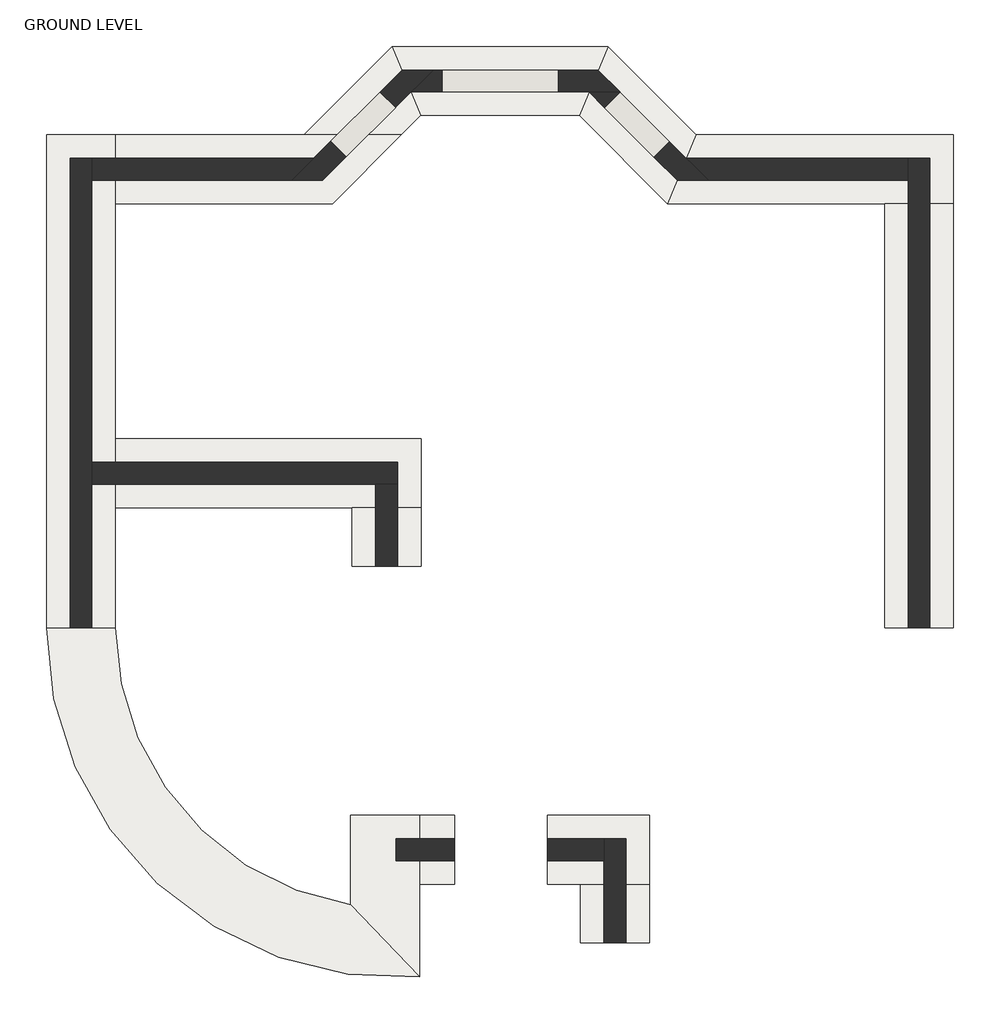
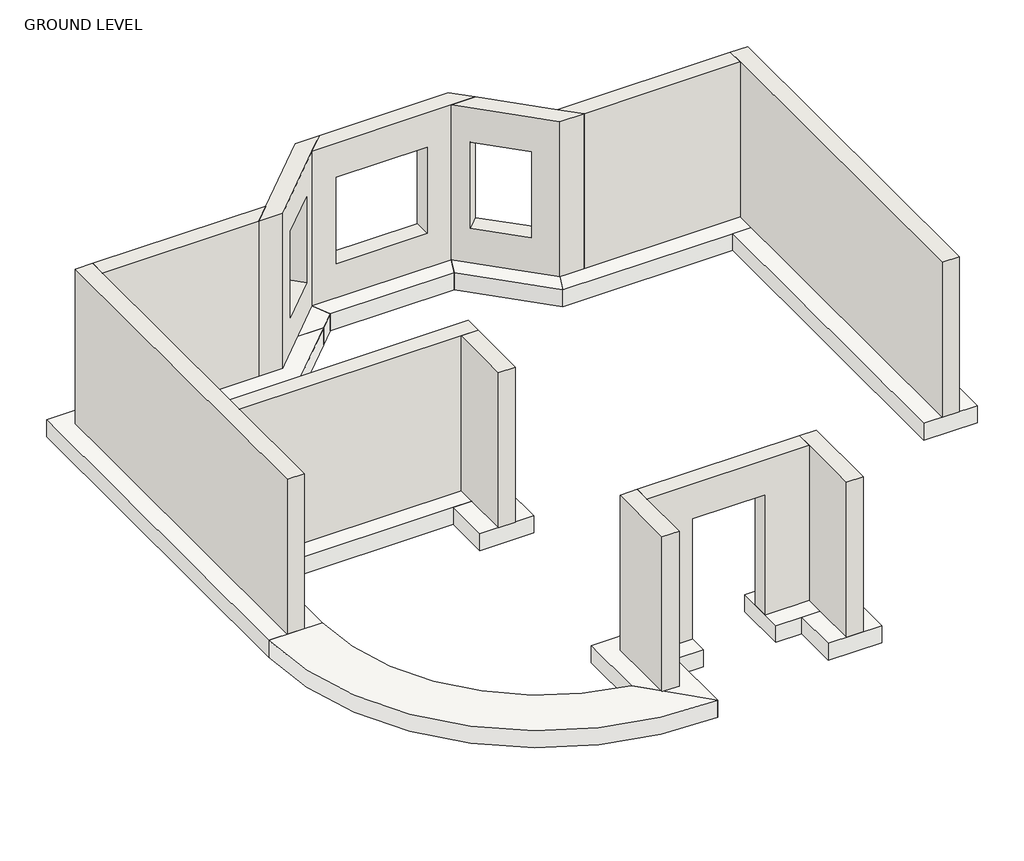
# One storey, incomplete: 13 footings, 12 walls.
"""IFC4 building model written with IfcOpenShell, lengths in millimetres."""

import ifcopenshell
import ifcopenshell.guid

model = None  # the IFC model being written
_history = None  # IfcOwnerHistory: only IFC2X3 demands one
_inside = {}  # id of a spatial element -> (the spatial element, [elements in it])
_under = {}  # id of a project, library or spatial element -> (it, [spatial elements below it])
_declared = {}  # id of a project -> (the project, [libraries it declares])
_typed = {}  # id of a type object -> (the type object, [elements of that type])
_made_of = {}  # id of a material, layer set ... -> (it, [elements and type objects made of it])


def new_model(schema):
    """Start an empty IFC model of exactly this schema.

    Asked for "IFC4X3", IfcOpenShell would pick the latest addendum, in which some entities
    have other attributes; the version numbers below select the first issue.
    IFC2X3 requires an IfcOwnerHistory on every rooted entity: one is made here for all.
    """
    global model, _history
    if schema == "IFC4X3":
        model = ifcopenshell.file(schema_version=(4, 3, 0, 0))
    else:
        model = ifcopenshell.file(schema=schema)
    _inside.clear()
    _under.clear()
    _declared.clear()
    _typed.clear()
    _made_of.clear()
    _history = None
    if model.schema == "IFC2X3":
        org = make("IfcOrganization", Name="unknown")
        user = make(
            "IfcPersonAndOrganization",
            ThePerson=make("IfcPerson", FamilyName="unknown"),
            TheOrganization=org,
        )
        app = make(
            "IfcApplication",
            ApplicationDeveloper=org,
            Version="unknown",
            ApplicationFullName="unknown",
            ApplicationIdentifier="unknown",
        )
        _history = make(
            "IfcOwnerHistory",
            OwningUser=user,
            OwningApplication=app,
            ChangeAction="ADDED",
            CreationDate=0,
        )
    return model


def make(cls, **values):
    """One entity of the class cls with the attributes given. An attribute that is None is left unset."""
    return model.create_entity(
        cls, **{name: value for name, value in values.items() if value is not None}
    )


def rooted(cls, **values):
    """An entity with a GlobalId (a new one), such as an element, a storey or a relation."""
    return make(cls, GlobalId=ifcopenshell.guid.new(), OwnerHistory=_history, **values)


def si_unit(unit_type, name, prefix=None):
    """IfcSIUnit, for example si_unit("LENGTHUNIT", "METRE", prefix="MILLI")."""
    return make("IfcSIUnit", UnitType=unit_type, Prefix=prefix, Name=name)


def assignment(units):
    """IfcUnitAssignment: the units of a project."""
    return None if units is None else make("IfcUnitAssignment", Units=units)


def point(xyz):
    """IfcCartesianPoint."""
    return None if xyz is None else make("IfcCartesianPoint", Coordinates=xyz)


def direction(xyz):
    """IfcDirection."""
    return None if xyz is None else make("IfcDirection", DirectionRatios=xyz)


def frame(location, z_axis=None, x_axis=None):
    """IfcAxis2Placement3D, a coordinate frame: its origin and axes. An axis left out is left unset."""
    return make(
        "IfcAxis2Placement3D",
        Location=point(location),
        Axis=direction(z_axis),
        RefDirection=direction(x_axis),
    )


def frame_2d(location, x_axis=None):
    """IfcAxis2Placement2D, a coordinate frame in the plane: its origin and x axis."""
    return make(
        "IfcAxis2Placement2D", Location=point(location), RefDirection=direction(x_axis)
    )


def origin():
    """The frame at (0, 0, 0) with its axes left unset."""
    return frame((0.0, 0.0, 0.0))


def origin_with_axes():
    """The frame at (0, 0, 0) with the z axis (0, 0, 1) and the x axis (1, 0, 0) written out."""
    return frame((0.0, 0.0, 0.0), z_axis=(0.0, 0.0, 1.0), x_axis=(1.0, 0.0, 0.0))


def place(relative_to, where):
    """IfcLocalPlacement: puts the frame where relative to a parent placement (None: the world)."""
    return make(
        "IfcLocalPlacement", PlacementRelTo=relative_to, RelativePlacement=where
    )


def context(
    kind, dimensions, precision=None, world=None, true_north=None, identifier=None
):
    """IfcGeometricRepresentationContext, for example the 3D "Model" context."""
    return make(
        "IfcGeometricRepresentationContext",
        ContextIdentifier=identifier,
        ContextType=kind,
        CoordinateSpaceDimension=dimensions,
        Precision=precision,
        WorldCoordinateSystem=world,
        TrueNorth=true_north,
    )


def project(units=None, contexts=None):
    """IfcProject with its units and contexts."""
    return rooted(
        "IfcProject",
        Name="project",
        RepresentationContexts=contexts,
        UnitsInContext=assignment(units),
    )


def spatial(cls, under=None, at=None, **own):
    """A site, building, storey or space (cls), placed at a placement, below another one or the project."""
    s = rooted(cls, ObjectPlacement=at, **own)
    if under is not None:
        _under.setdefault(under.id(), (under, []))[1].append(s)
    return s


def polyline(points):
    """IfcPolyline through the points."""
    return make("IfcPolyline", Points=[point(p) for p in points])


def circle_curve(where, radius):
    """IfcCircle in the frame where."""
    return make("IfcCircle", Position=where, Radius=radius)


def trimmed(basis, trim1, trim2, sense, master):
    """IfcTrimmedCurve: the piece of a basis curve between two trims."""
    return make(
        "IfcTrimmedCurve",
        BasisCurve=basis,
        Trim1=trim1,
        Trim2=trim2,
        SenseAgreement=sense,
        MasterRepresentation=master,
    )


def segment(curve, same_sense, transition):
    """IfcCompositeCurveSegment."""
    return make(
        "IfcCompositeCurveSegment",
        Transition=transition,
        SameSense=same_sense,
        ParentCurve=curve,
    )


def composite_curve(segments, self_intersect=None):
    """IfcCompositeCurve: segments joined end to end."""
    return make("IfcCompositeCurve", Segments=segments, SelfIntersect=self_intersect)


def outline(outer, holes=None, kind="AREA"):
    """IfcArbitraryClosedProfileDef: a profile drawn as a closed curve; with holes, ...WithVoids."""
    if holes is None:
        return make("IfcArbitraryClosedProfileDef", ProfileType=kind, OuterCurve=outer)
    return make(
        "IfcArbitraryProfileDefWithVoids",
        ProfileType=kind,
        OuterCurve=outer,
        InnerCurves=holes,
    )


def extrude(swept, where, along, depth):
    """IfcExtrudedAreaSolid: the profile swept, set in the frame where, extruded along a direction by depth."""
    return make(
        "IfcExtrudedAreaSolid",
        SweptArea=swept,
        Position=where,
        ExtrudedDirection=direction(along),
        Depth=depth,
    )


def faces_of(points, faces, orient=None, outer=None):
    """IfcFace entities. A face is a list of loops; a loop is a list of indices into points, from 0.

    orient and outer hold one flag for each loop. By default every Orientation is true, the
    first loop of a face is its IfcFaceOuterBound and the others are IfcFaceBound.
    """
    made = []
    for i, loops in enumerate(faces):
        bounds = []
        for j, loop in enumerate(loops):
            is_outer = j == 0 if outer is None else outer[i][j]
            bounds.append(
                make(
                    "IfcFaceOuterBound" if is_outer else "IfcFaceBound",
                    Bound=make("IfcPolyLoop", Polygon=[points[k] for k in loop]),
                    Orientation=True if orient is None else orient[i][j],
                )
            )
        made.append(make("IfcFace", Bounds=bounds))
    return made


def faceted_brep(points, faces, orient=None, outer=None, voids=None):
    """IfcFacetedBrep: a solid bounded by flat faces; with voids (closed shells), ...WithVoids."""
    shared = [point(p) for p in points]
    hull = make("IfcClosedShell", CfsFaces=faces_of(shared, faces, orient, outer))
    if voids is None:
        return make("IfcFacetedBrep", Outer=hull)
    return make(
        "IfcFacetedBrepWithVoids",
        Outer=hull,
        Voids=[
            make(cls, CfsFaces=faces_of(shared, fs, o, b)) for cls, fs, o, b in voids
        ],
    )


def shape(context_of_items, identifier, shape_type, items):
    """IfcShapeRepresentation: the items that make up one representation, for example the "Body"."""
    return make(
        "IfcShapeRepresentation",
        ContextOfItems=context_of_items,
        RepresentationIdentifier=identifier,
        RepresentationType=shape_type,
        Items=items,
    )


def made_of(thing, what):
    """Note that an element or type object is made of a material, layer set ...; save() writes the relation."""
    if what is not None:
        _made_of.setdefault(what.id(), (what, []))[1].append(thing)
    return thing


def element(
    cls,
    number,
    at=None,
    inside=None,
    cuts=None,
    type_object=None,
    material=None,
    context=None,
    identifier="Body",
    shape_type=None,
    held_by="IfcProductDefinitionShape",
    body=None,
    shapes=None,
    **own,
):
    """One element of the class cls, such as IfcWall. Its Tag is "e" and its number.

    at: its placement. inside: the storey or other place that contains it. cuts: it is an
    opening in that element (IfcRelVoidsElement). A single representation is given by context,
    identifier, shape_type and body (its items); several are given by shapes. held_by: the class
    of the entity that holds the representations. save() writes the other relations.
    """
    e = rooted(cls, Tag="e%d" % number, ObjectPlacement=at, **own)
    if body is not None:
        shapes = [shape(context, identifier, shape_type, body)]
    if shapes is not None:
        e.Representation = make(held_by, Representations=shapes)
    if inside is not None:
        _inside.setdefault(inside.id(), (inside, []))[1].append(e)
    if cuts is not None:
        rooted(
            "IfcRelVoidsElement", RelatingBuildingElement=cuts, RelatedOpeningElement=e
        )
    if type_object is not None:
        _typed.setdefault(type_object.id(), (type_object, []))[1].append(e)
    return made_of(e, material)


def aggregate(whole, parts):
    """IfcRelAggregates: a whole, such as a stair, and the parts it consists of."""
    return rooted("IfcRelAggregates", RelatingObject=whole, RelatedObjects=parts)


def save(model, path):
    """Write the relations noted so far, then the file.

    IfcRelAggregates (storeys below a building ...), IfcRelContainedInSpatialStructure (elements
    in a storey), IfcRelDefinesByType, IfcRelAssociatesMaterial and IfcRelDeclares: one each for
    every whole, place, type object, material and project.
    """
    for whole, parts in _under.values():
        aggregate(whole, parts)
    for where, things in _inside.values():
        rooted(
            "IfcRelContainedInSpatialStructure",
            RelatedElements=things,
            RelatingStructure=where,
        )
    for kind, things in _typed.values():
        rooted("IfcRelDefinesByType", RelatedObjects=things, RelatingType=kind)
    for what, things in _made_of.values():
        rooted("IfcRelAssociatesMaterial", RelatedObjects=things, RelatingMaterial=what)
    for by, libraries in _declared.values():
        rooted("IfcRelDeclares", RelatingContext=by, RelatedDefinitions=libraries)
    model.write(path)


def plane_surface(at):
    """IfcPlane: the flat surface through the origin of the frame at, square to its z axis."""
    return make("IfcPlane", Position=at)


def cylinder_surface(at, radius):
    """IfcCylindricalSurface: all points at the distance radius from the z axis of the frame at."""
    return make("IfcCylindricalSurface", Position=at, Radius=radius)


def advanced_brep(points, edges, surfaces, faces):
    """IfcAdvancedBrep: a solid bounded by faces that lie on surfaces and meet in shared edges.

    An edge is (start, end): straight between two places in points (the first is 0);
    or (start, end, curve); or (start, end, curve, False) where it runs against its curve.
    A face is (place in surfaces, loops), or (place, loops, False) where it looks against
    its surface's normal. A loop lists edges by number (the first is 1), with a minus sign
    where the edge is run from its end to its start. The first loop is the outer one.
    """
    corners = [point(p) for p in points]
    vertices = [make("IfcVertexPoint", VertexGeometry=c) for c in corners]
    made = []
    for start, end, *more in edges:
        made.append(
            make(
                "IfcEdgeCurve",
                EdgeStart=vertices[start],
                EdgeEnd=vertices[end],
                EdgeGeometry=more[0] if more else make("IfcPolyline", Points=[corners[start], corners[end]]),
                SameSense=more[1] if len(more) > 1 else True,
            )
        )
    hull = []
    for where, loops, *sense in faces:
        bounds = []
        for j, loop in enumerate(loops):
            ring = [make("IfcOrientedEdge", EdgeElement=made[abs(k) - 1], Orientation=k > 0) for k in loop]
            bounds.append(
                make(
                    "IfcFaceOuterBound" if j == 0 else "IfcFaceBound",
                    Bound=make("IfcEdgeLoop", EdgeList=ring),
                    Orientation=True,
                )
            )
        hull.append(make("IfcAdvancedFace", Bounds=bounds, FaceSurface=surfaces[where], SameSense=sense[0] if sense else True))
    return make("IfcAdvancedBrep", Outer=make("IfcClosedShell", CfsFaces=hull))


model = new_model("IFC4")

# Units and contexts
model_context = context("Model", 3, world=origin())
ifc_project = project(units=[si_unit("LENGTHUNIT", "METRE", prefix="MILLI")], contexts=[model_context])

# Site, building, storey
site = spatial("IfcSite", under=ifc_project)
building = spatial("IfcBuilding", under=site)
storey = spatial("IfcBuildingStorey", under=building, Name="GROUND LEVEL", Elevation=0.0)

# Footings
placement = place(None, origin())
element("IfcFooting", 1, ObjectType="Bearing Footing - 900 x 300", at=placement, inside=storey, context=model_context, shape_type="Brep", body=[
    faceted_brep([(-15858.7915735, -7854.8373182, 0.0), (-15858.7915735, -6283.9498182, 0.0), (-15858.7915735, -5383.9498182, 0.0), (-15858.7915735, -2310.4373182, 0.0), (-15858.7915735, -1410.4373182, 0.0), (-16758.7915735, -1410.4373182, 0.0), (-16758.7915735, -7854.8373182, 0.0), (-16758.7915735, -7854.8373182, -300.0), (-16758.7915735, -1410.4373182, -300.0), (-15858.7915735, -7854.8373182, -300.0), (-15858.7915735, -1410.4373182, -300.0), (-15858.7915735, -2310.4373182, -300.0), (-15858.7915735, -5383.9498182, -300.0), (-15858.7915735, -6283.9498182, -300.0)], [[[0, 1, 2, 3, 4, 5, 6]], [[7, 6, 5, 8]], [[9, 7, 8, 10, 11, 12, 13]], [[0, 9, 13, 12, 11, 10, 4, 3, 2, 1]], [[0, 6, 7, 9]], [[5, 4, 10, 8]]]),
])
element("IfcFooting", 2, ObjectType="Bearing Footing - 900 x 300", at=placement, inside=storey, context=model_context, shape_type="SweptSolid", body=[
    extrude(outline(composite_curve([segment(trimmed(circle_curve(frame_2d((-12184.4665735, -7854.8373182)), 4574.325), [point((-11877.3415735, -12418.8403243))], [point((-16758.7915735, -7854.8373182))], False, "CARTESIAN"), True, "CONTINUOUS"), segment(polyline([(-16758.7915735, -7854.8373182), (-15858.7915735, -7854.8373182)]), True, "CONTINUOUS"), segment(trimmed(circle_curve(frame_2d((-12184.4665735, -7854.8373182)), 3674.325), [point((-15858.7915735, -7854.8373182))], [point((-12777.3415735, -11481.0148428))], True, "CARTESIAN"), True, "CONTINUOUS"), segment(polyline([(-12777.3415735, -11481.0148428), (-11877.3415735, -12418.8403243)]), True, "CONTINUOUS")], self_intersect=False)), frame((0.0, 0.0, -300.0), z_axis=(0.0, 0.0, 1.0), x_axis=(1.0, 0.0, 0.0)), (0.0, 0.0, 1.0), 300.0),
])
element("IfcFooting", 3, ObjectType="Bearing Footing - 900 x 300", at=placement, inside=storey, context=model_context, shape_type="Brep", body=[
    faceted_brep([(-12777.3415735, -10307.4868351, 0.0), (-12777.3415735, -11481.0148428, 0.0), (-11877.3415735, -12418.8403243, 0.0), (-11877.3415735, -11207.4868351, 0.0), (-11877.3415735, -10307.4868351, 0.0), (-12777.3415735, -10307.4868351, -300.0), (-12777.3415735, -11481.0148428, -300.0), (-11877.3415735, -10307.4868351, -300.0), (-11877.3415735, -11207.4868351, -300.0), (-11877.3415735, -12418.8403243, -300.0)], [[[0, 1, 2, 3, 4]], [[1, 0, 5, 6]], [[6, 5, 7, 8, 9]], [[9, 8, 7, 4, 3, 2]], [[2, 1, 6, 9]], [[0, 4, 7, 5]]]),
])
element("IfcFooting", 4, ObjectType="Bearing Footing - 900 x 300", at=placement, inside=storey, context=model_context, shape_type="Brep", body=[
    faceted_brep([(-11422.2370513, -10307.4868351, -300.0), (-11422.2370513, -10307.4868351, 0.0), (-11422.2370513, -11207.4868351, 0.0), (-11422.2370513, -11207.4868351, -300.0), (-11877.3415735, -10307.4868351, 0.0), (-11877.3415735, -11207.4868351, 0.0), (-11877.3415735, -10307.4868351, -300.0), (-11877.3415735, -11207.4868351, -300.0)], [[[0, 1, 2, 3]], [[2, 1, 4, 5]], [[1, 0, 6, 4]], [[0, 3, 7, 6]], [[3, 2, 5, 7]], [[5, 4, 6, 7]]]),
    faceted_brep([(-10203.0370513, -10307.4868351, 0.0), (-10203.0370513, -10307.4868351, -300.0), (-10203.0370513, -11207.4868351, -300.0), (-10203.0370513, -11207.4868351, 0.0), (-8872.7756223, -10307.4868351, 0.0), (-9772.7756223, -11207.4868351, 0.0), (-8872.7756223, -11207.4868351, 0.0), (-8872.7756223, -10307.4868351, -300.0), (-8872.7756223, -11207.4868351, -300.0), (-9772.7756223, -11207.4868351, -300.0)], [[[0, 1, 2, 3]], [[4, 0, 3, 5, 6]], [[1, 0, 4, 7]], [[2, 1, 7, 8, 9]], [[3, 2, 9, 8, 6, 5]], [[4, 6, 8, 7]]]),
])
element("IfcFooting", 5, ObjectType="Bearing Footing - 900 x 300", at=placement, inside=storey, context=model_context, shape_type="SweptSolid", body=[
    extrude(outline(polyline([(-8872.7756223, -11976.6868351), (-9772.7756223, -11976.6868351), (-9772.7756223, -11207.4868351), (-8872.7756223, -11207.4868351), (-8872.7756223, -11976.6868351)])), frame((0.0, 0.0, -300.0), z_axis=(0.0, 0.0, 1.0), x_axis=(1.0, 0.0, 0.0)), (0.0, 0.0, 1.0), 300.0),
])
element("IfcFooting", 6, ObjectType="Bearing Footing - 900 x 300", at=placement, inside=storey, context=model_context, shape_type="Brep", body=[
    faceted_brep([(-15858.7915735, -6283.9498182, 0.0), (-12758.8696553, -6283.9498182, 0.0), (-11858.8696553, -6283.9498182, 0.0), (-11858.8696553, -5383.9498182, 0.0), (-15858.7915735, -5383.9498182, 0.0), (-15858.7915735, -5383.9498182, -300.0), (-11858.8696553, -5383.9498182, -300.0), (-15858.7915735, -6283.9498182, -300.0), (-11858.8696553, -6283.9498182, -300.0), (-12758.8696553, -6283.9498182, -300.0)], [[[0, 1, 2, 3, 4]], [[5, 4, 3, 6]], [[7, 5, 6, 8, 9]], [[0, 7, 9, 8, 2, 1]], [[0, 4, 5, 7]], [[3, 2, 8, 6]]]),
])
element("IfcFooting", 7, ObjectType="Bearing Footing - 900 x 300", at=placement, inside=storey, context=model_context, shape_type="SweptSolid", body=[
    extrude(outline(polyline([(-11858.8696553, -7053.1498182), (-12758.8696553, -7053.1498182), (-12758.8696553, -6283.9498182), (-11858.8696553, -6283.9498182), (-11858.8696553, -7053.1498182)])), frame((0.0, 0.0, -300.0), z_axis=(0.0, 0.0, 1.0), x_axis=(1.0, 0.0, 0.0)), (0.0, 0.0, 1.0), 300.0),
])
element("IfcFooting", 8, ObjectType="Bearing Footing - 900 x 300", at=placement, inside=storey, context=model_context, shape_type="Brep", body=[
    faceted_brep([(-13018.3897077, -2310.4373182, 0.0), (-12118.3897077, -1410.4373182, 0.0), (-13391.1819139, -1410.4373182, 0.0), (-15858.7915735, -1410.4373182, 0.0), (-15858.7915735, -2310.4373182, 0.0), (-12118.3897077, -1410.4373182, -300.0), (-13391.1819139, -1410.4373182, -300.0), (-15858.7915735, -1410.4373182, -300.0), (-13018.3897077, -2310.4373182, -300.0), (-15858.7915735, -2310.4373182, -300.0)], [[[0, 1, 2, 3, 4]], [[1, 5, 6, 7, 3, 2]], [[5, 8, 9, 7, 6]], [[8, 0, 4, 9]], [[4, 3, 7, 9]], [[1, 0, 8, 5]]]),
])
element("IfcFooting", 9, ObjectType="Bearing Footing - 900 x 300", at=placement, inside=storey, context=model_context, shape_type="SweptSolid", body=[
    extrude(outline(polyline([(-13391.1819139, -1410.4373182), (-12234.9739383, -254.2293426), (-11862.1817321, -1154.2293426), (-12118.3897077, -1410.4373182), (-13391.1819139, -1410.4373182)])), frame((0.0, 0.0, -300.0), z_axis=(0.0, 0.0, 1.0), x_axis=(1.0, 0.0, 0.0)), (0.0, 0.0, 1.0), 300.0),
])
element("IfcFooting", 10, ObjectType="Bearing Footing - 900 x 300", at=placement, inside=storey, context=model_context, shape_type="SweptSolid", body=[
    extrude(outline(polyline([(-12234.9739383, -254.2293426), (-9415.1432576, -254.2293426), (-9787.9354637, -1154.2293426), (-11862.1817321, -1154.2293426), (-12234.9739383, -254.2293426)])), frame((0.0, 0.0, -300.0), z_axis=(0.0, 0.0, 1.0), x_axis=(1.0, 0.0, 0.0)), (0.0, 0.0, 1.0), 300.0),
])
element("IfcFooting", 11, ObjectType="Bearing Footing - 900 x 300", at=placement, inside=storey, context=model_context, shape_type="SweptSolid", body=[
    extrude(outline(polyline([(-9415.1432576, -254.2293426), (-8258.935282, -1410.4373182), (-8631.7274881, -2310.4373182), (-9787.9354637, -1154.2293426), (-9415.1432576, -254.2293426)])), frame((0.0, 0.0, -300.0), z_axis=(0.0, 0.0, 1.0), x_axis=(1.0, 0.0, 0.0)), (0.0, 0.0, 1.0), 300.0),
])
element("IfcFooting", 12, ObjectType="Bearing Footing - 900 x 300", at=placement, inside=storey, context=model_context, shape_type="Brep", body=[
    faceted_brep([(-8631.7274881, -2310.4373182, 0.0), (-5791.3256223, -2310.4373182, 0.0), (-4891.3256223, -2310.4373182, 0.0), (-4891.3256223, -1410.4373182, 0.0), (-8258.935282, -1410.4373182, 0.0), (-8631.7274881, -2310.4373182, -300.0), (-5791.3256223, -2310.4373182, -300.0), (-4891.3256223, -2310.4373182, -300.0), (-8258.935282, -1410.4373182, -300.0), (-4891.3256223, -1410.4373182, -300.0)], [[[0, 1, 2, 3, 4]], [[2, 1, 0, 5, 6, 7]], [[7, 6, 5, 8, 9]], [[3, 9, 8, 4]], [[0, 4, 8, 5]], [[3, 2, 7, 9]]]),
])
element("IfcFooting", 13, ObjectType="Bearing Footing - 900 x 300", at=placement, inside=storey, context=model_context, shape_type="SweptSolid", body=[
    extrude(outline(polyline([(-4891.3256223, -7854.8373182), (-5791.3256223, -7854.8373182), (-5791.3256223, -2310.4373182), (-4891.3256223, -2310.4373182), (-4891.3256223, -7854.8373182)])), frame((0.0, 0.0, -300.0), z_axis=(0.0, 0.0, 1.0), x_axis=(1.0, 0.0, 0.0)), (0.0, 0.0, 1.0), 300.0),
])

# Walls
element("IfcWall", 14, ObjectType="Generic- NUDURA 6-Inch Form Unit", at=placement, inside=storey, context=model_context, shape_type="Brep", body=[
    faceted_brep([(-16165.9165735, -7854.8373182, 0.0), (-16165.9165735, -5976.8248182, 0.0), (-16165.9165735, -5691.0748182, 0.0), (-16165.9165735, -2003.3123182, 0.0), (-16165.9165735, -1717.5623182, 0.0), (-16165.9165735, -1717.5623182, 2743.2), (-16165.9165735, -2003.3123182, 2743.2), (-16165.9165735, -5691.0748182, 2743.2), (-16165.9165735, -5976.8248182, 2743.2), (-16165.9165735, -7854.8373182, 2743.2), (-16451.6665735, -7854.8373182, 0.0), (-16451.6665735, -7854.8373182, 2743.2), (-16451.6665735, -1717.5623182, 2743.2), (-16451.6665735, -1717.5623182, 0.0)], [[[0, 1, 2, 3, 4, 5, 6, 7, 8, 9]], [[10, 11, 12, 13]], [[4, 3, 2, 1, 0, 10, 13]], [[9, 8, 7, 6, 5, 12, 11]], [[0, 9, 11, 10]], [[5, 4, 13, 12]]]),
])
element("IfcWall", 15, ObjectType="Generic- NUDURA 6-Inch Form Unit", at=placement, inside=storey, context=model_context, shape_type="SweptSolid", body=[
    extrude(outline(polyline([(-13549.7165735, -2003.3123182), (-16165.9165735, -2003.3123182), (-16165.9165735, -1717.5623182), (-13263.9665735, -1717.5623182), (-13549.7165735, -2003.3123182)])), origin_with_axes(), (0.0, 0.0, 1.0), 2743.2),
])
element("IfcWall", 16, ObjectType="Generic- NUDURA 6-Inch Form Unit", at=placement, inside=storey, context=model_context, shape_type="Brep", body=[
    faceted_brep([(-13145.6050481, -2003.3123182, 0.0), (-11989.3970725, -847.1043426, 0.0), (-11703.6470725, -561.3543426, 0.0), (-11703.6470725, -561.3543426, 2743.2), (-11989.3970725, -847.1043426, 2743.2), (-13145.6050481, -2003.3123182, 2743.2), (-12840.4644945, -1698.1717646, 2133.6), (-12193.8860537, -1051.5933239, 2133.6), (-12193.8860537, -1051.5933239, 609.6), (-12840.4644945, -1698.1717646, 609.6), (-12107.7585979, -561.3543426, 0.0), (-13263.9665735, -1717.5623182, 0.0), (-13549.7165735, -2003.3123182, 0.0), (-13549.7165735, -2003.3123182, 2743.2), (-13263.9665735, -1717.5623182, 2743.2), (-12107.7585979, -561.3543426, 2743.2), (-12395.9418165, -849.5375611, 2133.6), (-13042.5202572, -1496.1160019, 2133.6), (-13042.5202572, -1496.1160019, 609.6), (-12395.9418165, -849.5375611, 609.6)], [[[0, 1, 2, 3, 4, 5], [6, 7, 8, 9]], [[10, 11, 12, 13, 14, 15], [16, 17, 18, 19]], [[2, 1, 0, 12, 11, 10]], [[5, 4, 3, 15, 14, 13]], [[3, 2, 10, 15]], [[6, 17, 16, 7]], [[8, 19, 18, 9]], [[17, 6, 9, 18]], [[7, 16, 19, 8]], [[0, 5, 13, 12]]]),
])
element("IfcWall", 17, ObjectType="Generic- NUDURA 6-Inch Form Unit", at=placement, inside=storey, context=model_context, shape_type="Brep", body=[
    faceted_brep([(-11989.3970725, -847.1043426, 0.0), (-9660.7201234, -847.1043426, 0.0), (-9256.6085979, -847.1043426, 0.0), (-9256.6085979, -847.1043426, 2743.2), (-9660.7201234, -847.1043426, 2743.2), (-11989.3970725, -847.1043426, 2743.2), (-11585.865755, -847.1043426, 2133.6), (-10061.865755, -847.1043426, 2133.6), (-10061.865755, -847.1043426, 609.6), (-11585.865755, -847.1043426, 609.6), (-9542.3585979, -561.3543426, 0.0), (-11703.6470725, -561.3543426, 0.0), (-11703.6470725, -561.3543426, 2743.2), (-9542.3585979, -561.3543426, 2743.2), (-10061.865755, -561.3543426, 2133.6), (-11585.865755, -561.3543426, 2133.6), (-11585.865755, -561.3543426, 609.6), (-10061.865755, -561.3543426, 609.6)], [[[0, 1, 2, 3, 4, 5], [6, 7, 8, 9]], [[10, 11, 12, 13], [14, 15, 16, 17]], [[2, 1, 0, 11, 10]], [[5, 4, 3, 13, 12]], [[0, 5, 12, 11]], [[6, 15, 14, 7]], [[8, 17, 16, 9]], [[15, 6, 9, 16]], [[7, 14, 17, 8]], [[3, 2, 10, 13]]]),
])
element("IfcWall", 18, ObjectType="Generic- NUDURA 6-Inch Form Unit", at=placement, inside=storey, context=model_context, shape_type="Brep", body=[
    faceted_brep([(-9660.7201234, -847.1043426, 0.0), (-8504.5121478, -2003.3123182, 0.0), (-8504.5121478, -2003.3123182, 2743.2), (-9660.7201234, -847.1043426, 2743.2), (-9455.0382991, -1052.7861668, 2133.6), (-8808.4598584, -1699.3646075, 2133.6), (-8808.4598584, -1699.3646075, 609.6), (-9455.0382991, -1052.7861668, 609.6), (-8100.4006223, -2003.3123182, 0.0), (-8386.1506223, -1717.5623182, 0.0), (-9256.6085979, -847.1043426, 0.0), (-9256.6085979, -847.1043426, 2743.2), (-8386.1506223, -1717.5623182, 2743.2), (-8100.4006223, -2003.3123182, 2743.2), (-8606.4040957, -1497.3088448, 2133.6), (-9252.9825364, -850.7304041, 2133.6), (-9252.9825364, -850.7304041, 609.6), (-8606.4040957, -1497.3088448, 609.6)], [[[0, 1, 2, 3], [4, 5, 6, 7]], [[8, 9, 10, 11, 12, 13], [14, 15, 16, 17]], [[1, 0, 10, 9, 8]], [[3, 2, 13, 12, 11]], [[2, 1, 8, 13]], [[4, 15, 14, 5]], [[6, 17, 16, 7]], [[15, 4, 7, 16]], [[5, 14, 17, 6]], [[0, 3, 11, 10]]]),
])
element("IfcWall", 19, ObjectType="Generic- NUDURA 6-Inch Form Unit", at=placement, inside=storey, context=model_context, shape_type="Brep", body=[
    faceted_brep([(-5198.4506223, -7854.8373182, 0.0), (-5198.4506223, -1717.5623182, 0.0), (-5198.4506223, -1717.5623182, 2743.2), (-5198.4506223, -7854.8373182, 2743.2), (-5484.2006223, -7854.8373182, 0.0), (-5484.2006223, -7854.8373182, 2743.2), (-5484.2006223, -2003.3123182, 2743.2), (-5484.2006223, -1717.5623182, 2743.2), (-5484.2006223, -1717.5623182, 0.0), (-5484.2006223, -2003.3123182, 0.0)], [[[0, 1, 2, 3]], [[4, 5, 6, 7, 8, 9]], [[1, 0, 4, 9, 8]], [[3, 2, 7, 6, 5]], [[0, 3, 5, 4]], [[2, 1, 8, 7]]]),
])
element("IfcWall", 20, ObjectType="Generic- NUDURA 6-Inch Form Unit", at=placement, inside=storey, context=model_context, shape_type="SweptSolid", body=[
    extrude(outline(polyline([(-8386.1506223, -1717.5623182), (-5484.2006223, -1717.5623182), (-5484.2006223, -2003.3123182), (-8100.4006223, -2003.3123182), (-8386.1506223, -1717.5623182)])), origin_with_axes(), (0.0, 0.0, 1.0), 2743.2),
])
element("IfcWall", 21, ObjectType="Generic- NUDURA 6-Inch Form Unit", at=placement, inside=storey, context=model_context, shape_type="Brep", body=[
    faceted_brep([(-9179.9006223, -11976.6868351, 0.0), (-9179.9006223, -10614.6118351, 0.0), (-9179.9006223, -10614.6118351, 2743.2), (-9179.9006223, -11976.6868351, 2743.2), (-9465.6506223, -11976.6868351, 0.0), (-9465.6506223, -11976.6868351, 2743.2), (-9465.6506223, -10900.3618351, 2743.2), (-9465.6506223, -10614.6118351, 2743.2), (-9465.6506223, -10614.6118351, 0.0), (-9465.6506223, -10900.3618351, 0.0)], [[[0, 1, 2, 3]], [[4, 5, 6, 7, 8, 9]], [[1, 0, 4, 9, 8]], [[3, 2, 7, 6, 5]], [[0, 3, 5, 4]], [[2, 1, 8, 7]]]),
])
element("IfcWall", 22, ObjectType="Generic- NUDURA 6-Inch Form Unit", at=placement, inside=storey, context=model_context, shape_type="AdvancedBrep", body=[
    advanced_brep(
    [(-12184.4665735, -11836.2873182, 0.0), (-12184.4665735, -10900.3618351, 0.0), (-12184.4665735, -10614.6118351, 0.0), (-12184.4665735, -10614.6118351, 2743.2), (-12184.4665735, -10900.3618351, 2743.2), (-12184.4665735, -11836.2873182, 2743.2), (-12470.2165735, -11826.0198927, 0.0), (-12470.2165735, -11826.0198927, 2743.2), (-12470.2165735, -10614.6118351, 2743.2), (-12470.2165735, -10614.6118351, 0.0)],
    [
        (0, 1),
        (1, 2),
        (2, 3),
        (3, 4),
        (4, 5),
        (5, 0),
        (6, 7),
        (7, 8),
        (8, 9),
        (9, 6),
        (0, 6, circle_curve(frame((-12184.4665735, -7854.8373182, 0.0), z_axis=(0.0, 0.0, -1.0), x_axis=(-1.0, 0.0, 0.0)), 3981.45)),
        (9, 2),
        (3, 8),
        (7, 5, circle_curve(frame((-12184.4665735, -7854.8373182, 2743.2), z_axis=(0.0, 0.0, 1.0), x_axis=(-1.0, 0.0, 0.0)), 3981.45)),
    ],
    [
        plane_surface(frame((-12184.4665735, -11836.2873182, 0.0), z_axis=(1.0, 0.0, 0.0), x_axis=(0.0, 1.0, 0.0))),
        plane_surface(frame((-12470.2165735, -11836.2873182, 0.0), z_axis=(-1.0, 0.0, 0.0), x_axis=(0.0, -1.0, 0.0))),
        plane_surface(frame((-12184.4665735, -11976.6868351, 0.0), z_axis=(0.0, 0.0, -1.0), x_axis=(-1.0, 0.0, 0.0))),
        plane_surface(frame((-12184.4665735, -10757.4868351, 2743.2), z_axis=(0.0, 0.0, 1.0), x_axis=(-1.0, 0.0, 0.0))),
        cylinder_surface(frame((-12184.4665735, -7854.8373182, 0.0), z_axis=(0.0, 0.0, -1.0), x_axis=(-1.0, 0.0, 0.0)), 3981.45),
        plane_surface(frame((-12184.4665735, -10614.6118351, 0.0), z_axis=(0.0, 1.0, 0.0), x_axis=(-1.0, 0.0, 0.0))),
    ],
    [
        (0, [[1, 2, 3, 4, 5, 6]]),
        (1, [[7, 8, 9, 10]]),
        (2, [[-2, -1, 11, -10, 12]]),
        (3, [[-5, -4, 13, -8, 14]]),
        (4, [[-6, -14, -7, -11]]),
        (5, [[-3, -12, -9, -13]]),
    ],
),
])
element("IfcWall", 23, ObjectType="Generic- NUDURA 6-Inch Form Unit", at=placement, inside=storey, context=model_context, shape_type="SweptSolid", body=[
    extrude(outline(polyline([(0.0, -9465.6506223), (2743.2, -9465.6506223), (2743.2, -12184.4665735), (0.0, -12184.4665735), (0.0, -11422.2370513), (2130.3288733, -11422.2370513), (2130.3288733, -10203.0370513), (0.0, -10203.0370513), (0.0, -9465.6506223)])), frame((0.0, -10900.3618351, 0.0), z_axis=(0.0, 1.0, 0.0), x_axis=(0.0, 0.0, 1.0)), (0.0, 0.0, 1.0), 285.75),
])
element("IfcWall", 24, ObjectType="Generic- NUDURA 6-Inch Form Unit", at=placement, inside=storey, context=model_context, shape_type="Brep", body=[
    faceted_brep([(-16165.9165735, -5976.8248182, 0.0), (-12451.7446553, -5976.8248182, 0.0), (-12165.9946553, -5976.8248182, 0.0), (-12165.9946553, -5976.8248182, 2743.2), (-12451.7446553, -5976.8248182, 2743.2), (-16165.9165735, -5976.8248182, 2743.2), (-16165.9165735, -5691.0748182, 0.0), (-16165.9165735, -5691.0748182, 2743.2), (-12165.9946553, -5691.0748182, 2743.2), (-12165.9946553, -5691.0748182, 0.0)], [[[0, 1, 2, 3, 4, 5]], [[6, 7, 8, 9]], [[2, 1, 0, 6, 9]], [[5, 4, 3, 8, 7]], [[0, 5, 7, 6]], [[3, 2, 9, 8]]]),
])
element("IfcWall", 25, ObjectType="Generic- NUDURA 6-Inch Form Unit", at=placement, inside=storey, context=model_context, shape_type="SweptSolid", body=[
    extrude(outline(polyline([(-12451.7446553, -7053.1498182), (-12451.7446553, -5976.8248182), (-12165.9946553, -5976.8248182), (-12165.9946553, -7053.1498182), (-12451.7446553, -7053.1498182)])), origin_with_axes(), (0.0, 0.0, 1.0), 2743.2),
])

save(model, "model.ifc")
